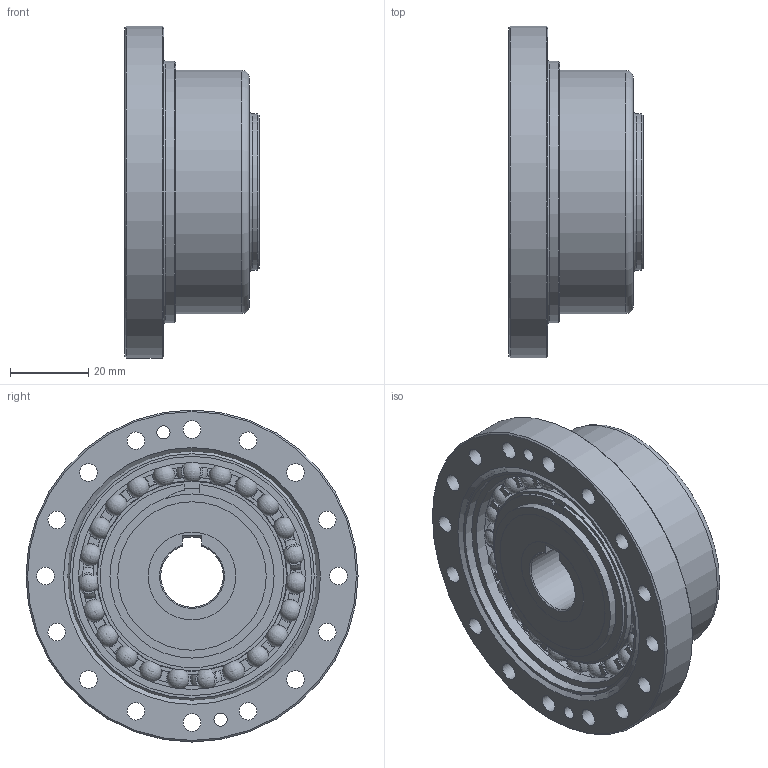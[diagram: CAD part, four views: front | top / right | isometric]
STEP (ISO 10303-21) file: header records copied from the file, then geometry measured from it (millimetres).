
FILE_DESCRIPTION(/* description */ (''),/* implementation_level */ '2;1');
FILE_NAME(/* name */ 'Getriebeset_CTG_63_FK.stp',/* time_stamp */ '2026-03-09T10:52:22+01:00',/* author */ (''),/* organization */ (''),/* preprocessor_version */ 'ST-DEVELOPER v19.4',/* originating_system */ 'SIEMENS PLM Software NX2212.9120',/* authorisation */ '');
FILE_SCHEMA (('AUTOMOTIVE_DESIGN { 1 0 10303 214 3 1 1 1 }'));
Length unit declared in the file: millimetre
Products named in the file (1): Getriebeset_CTG_63_FK
Bounding box: 34.4 x 85 x 85 mm (x, y, z)
Volume: 55756.1 mm3; surface area: 49165.7 mm2
Topology: 30 solids, 30 shells, 292 faces, 832 edges, 563 vertices
Faces by surface type: cylinder 92, plane 77, torus 44, cone 42, sphere 35, bspline 2
Full cylindrical faces by diameter (mm): 2.6 x2, 3.4 x2, 4.5 x16, 6.6 x8, 20 x1, 22.5 x1, 38 x1, 40 x1, 40.52 x1, 42 x1, 45 x2, 48.5 x2, 48.8 x1, 58.1 x2, 61.3 x2, 62.3 x1, 63 x1, 64 x1, 67 x1, 85 x1
Entity records: 12038 total; most frequent: CARTESIAN_POINT 5166, ORIENTED_EDGE 1308, DIRECTION 1277, EDGE_CURVE 654, AXIS2_PLACEMENT_3D 590, VERTEX_POINT 496, EDGE_LOOP 411, CIRCLE 299
